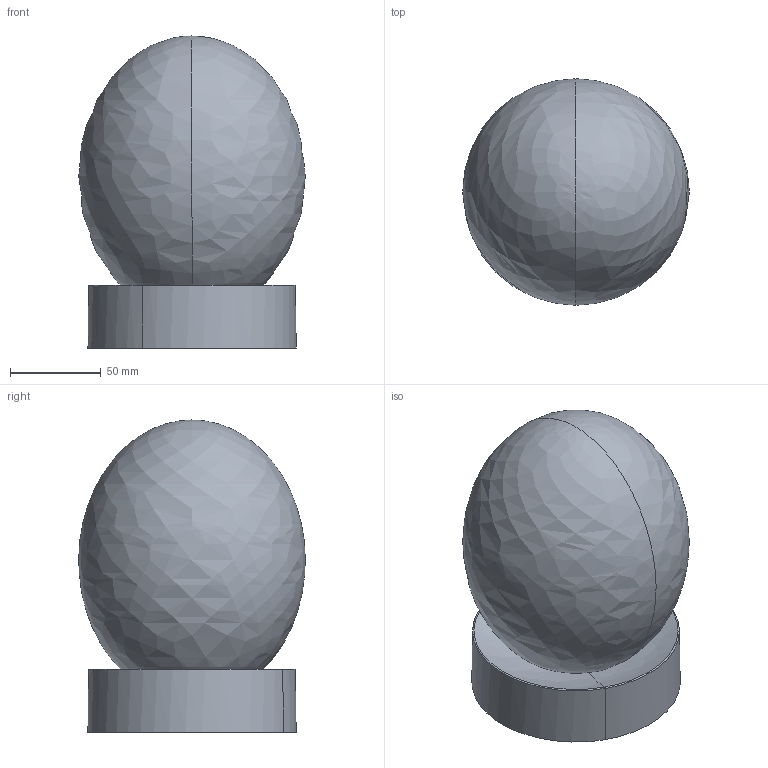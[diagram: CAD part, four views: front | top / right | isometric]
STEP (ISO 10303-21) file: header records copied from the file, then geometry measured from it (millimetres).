
FILE_DESCRIPTION(/* description */ (''),/* implementation_level */ '2;1');
FILE_NAME(/* name */ 'The Philosophical Egg Collection Short Ceiling Rose, 2019',/* time_stamp */ '2020-10-12T09:55:02+01:00',/* author */ (''),/* organization */ (''),/* preprocessor_version */ 'ST-DEVELOPER v15',/* originating_system */ '',/* authorisation */ '');
FILE_SCHEMA (('AUTOMOTIVE_DESIGN'));
Length unit declared in the file: millimetre
Products named in the file (1): Document
Bounding box: 125 x 124.97 x 172.13 mm (x, y, z)
Surface area: 86510.8 mm2 (no closed solid volume)
Topology: 0 solids, 1 shells, 9 faces, 21 edges, 12 vertices
Faces by surface type: bspline 8, plane 1
Entity records: 638 total; most frequent: CARTESIAN_POINT 504, ORIENTED_EDGE 37, EDGE_CURVE 19, VERTEX_POINT 12, EDGE_LOOP 10, ADVANCED_FACE 9, FACE_OUTER_BOUND 9, B_SPLINE_CURVE_WITH_KNOTS 9
